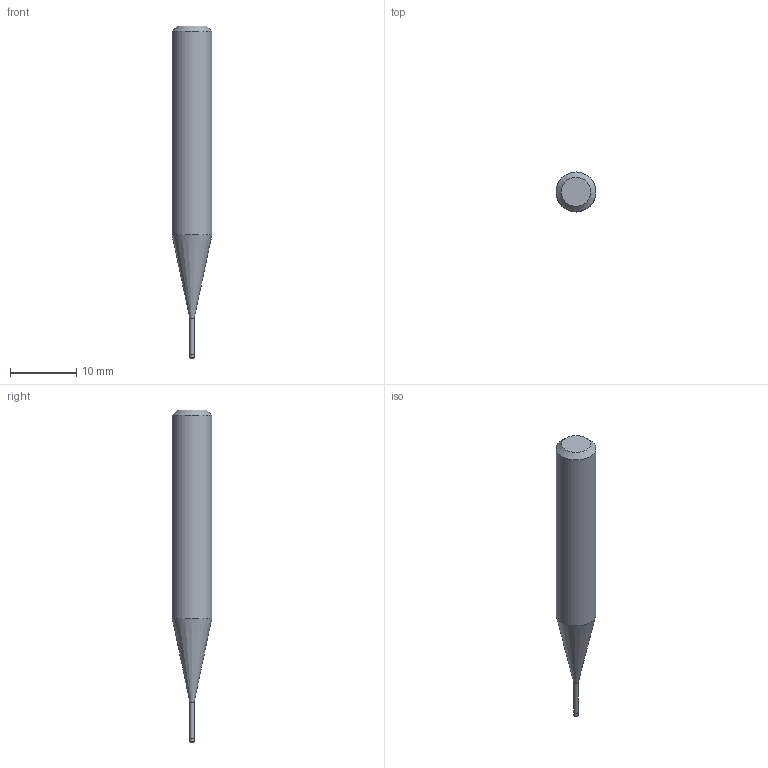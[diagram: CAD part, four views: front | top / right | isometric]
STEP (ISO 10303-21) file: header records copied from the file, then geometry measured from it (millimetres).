
FILE_DESCRIPTION((''),'2;1');
FILE_NAME('C:\Users\nsx150\AppData\Local\Temp\Mastercam 2021\17T8Q8S9EB\TEMP.step','2021-04-21T14:32:04',(''),(''),'STEP Write','Mastercam 2021 ... CNC Software, Inc.','');
FILE_SCHEMA(('AUTOMOTIVE_DESIGN'));
Length unit declared in the file: millimetre
Products named in the file (1): None
Bounding box: 6 x 6 x 50 mm (x, y, z)
Volume: 1018.3 mm3; surface area: 759.1 mm2
Topology: 2 solids, 2 shells, 10 faces, 14 edges, 8 vertices
Faces by surface type: plane 4, cylinder 3, cone 2, torus 1
Full cylindrical faces by diameter (mm): 0.66 x1, 0.7 x1, 6 x1
Entity records: 232 total; most frequent: DIRECTION 40, CARTESIAN_POINT 28, AXIS2_PLACEMENT_3D 20, ORIENTED_EDGE 16, EDGE_LOOP 16, STYLED_ITEM 13, ADVANCED_FACE 10, FACE_BOUND 10
